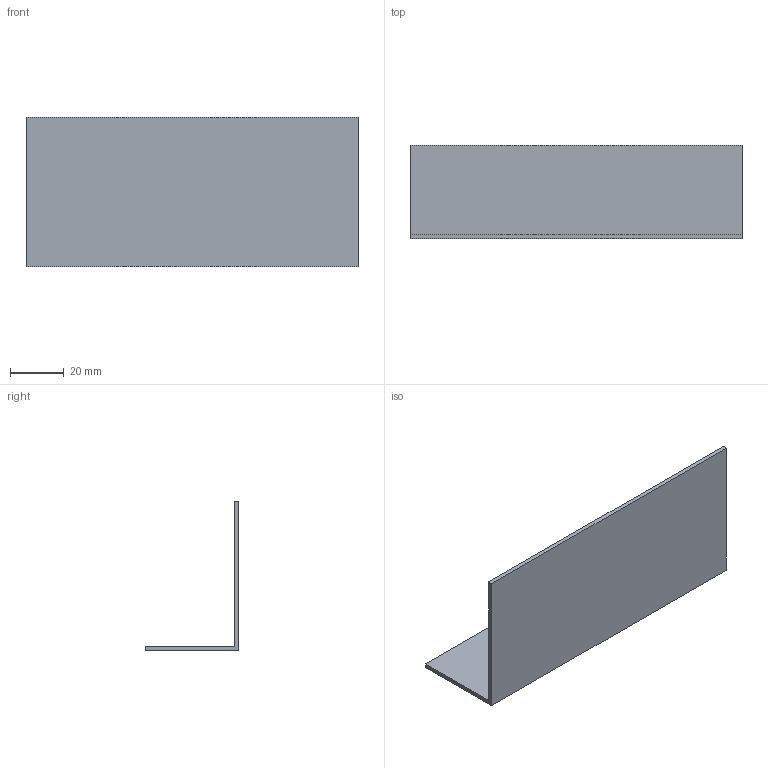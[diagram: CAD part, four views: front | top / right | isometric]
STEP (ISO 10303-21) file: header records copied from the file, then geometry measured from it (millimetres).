
FILE_DESCRIPTION(('Open CASCADE Model'),'2;1');
FILE_NAME('Open CASCADE Shape Model','2026-09-29T12:48:02',('Author'),( 'Open CASCADE'),'Open CASCADE STEP processor 7.9','Open CASCADE 7.9' ,'Unknown');
FILE_SCHEMA(('AUTOMOTIVE_DESIGN { 1 0 10303 214 1 1 1 1 }'));
Length unit declared in the file: millimetre
Products named in the file (1): Open CASCADE STEP translator 7.9 14
Bounding box: 123 x 34.62 x 55.35 mm (x, y, z)
Volume: 17392.2 mm3; surface area: 22416.6 mm2
Topology: 1 solids, 1 shells, 8 faces, 18 edges, 12 vertices
Faces by surface type: plane 8
Entity records: 464 total; most frequent: CARTESIAN_POINT 77, DIRECTION 70, LINE 52, VECTOR 52, ORIENTED_EDGE 36, PCURVE 36, DEFINITIONAL_REPRESENTATION 36, EDGE_CURVE 18
